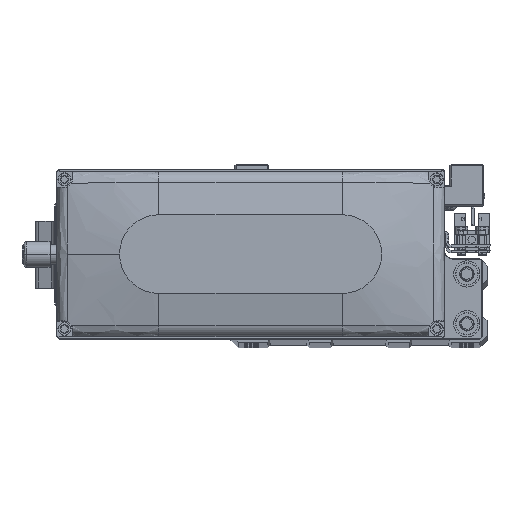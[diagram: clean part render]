
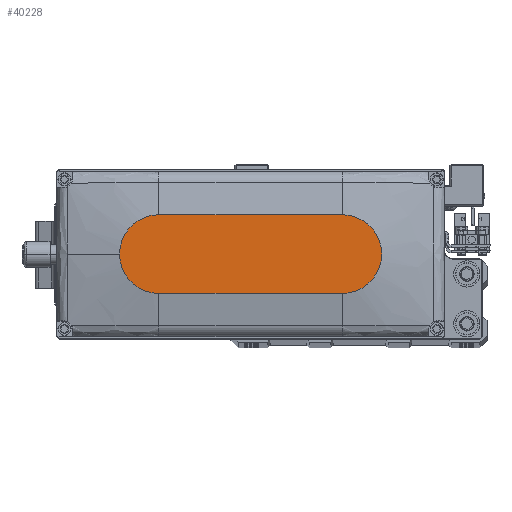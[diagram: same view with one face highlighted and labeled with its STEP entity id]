
A CAD part, top view. The second image highlights one B-rep face of the part: STEP entity #40228.
In plain terms, the highlighted planar face has unit normal (0, 0, 1).
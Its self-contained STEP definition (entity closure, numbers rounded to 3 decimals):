
#204 = PLANE ( 'NONE',  #4964 ) ;
#2951 = CIRCLE ( 'NONE', #28607, 15. ) ;
#3126 = CARTESIAN_POINT ( 'NONE',  ( -35., 0., 35. ) ) ;
#3493 = AXIS2_PLACEMENT_3D ( 'NONE', #44751, #13314, #27327 ) ;
#4129 = EDGE_CURVE ( 'NONE', #39823, #41136, #2951, .T. ) ;
#4964 = AXIS2_PLACEMENT_3D ( 'NONE', #14205, #28225, #42209 ) ;
#6933 = CARTESIAN_POINT ( 'NONE',  ( -35., -15., 35. ) ) ;
#8018 = EDGE_CURVE ( 'NONE', #41136, #9894, #31284, .T. ) ;
#8319 = DIRECTION ( 'NONE',  ( 1., 0., 0. ) ) ;
#8947 = ORIENTED_EDGE ( 'NONE', *, *, #15774, .T. ) ;
#9261 = CARTESIAN_POINT ( 'NONE',  ( 35., -15., 35. ) ) ;
#9388 = CARTESIAN_POINT ( 'NONE',  ( 35., 0., 35. ) ) ;
#9894 = VERTEX_POINT ( 'NONE', #25469 ) ;
#10033 = VECTOR ( 'NONE', #8319, 1000. ) ;
#12227 = EDGE_CURVE ( 'NONE', #9894, #21174, #35566, .T. ) ;
#13314 = DIRECTION ( 'NONE',  ( 0., 0., 1. ) ) ;
#13828 = DIRECTION ( 'NONE',  ( -1., 0., 0. ) ) ;
#14205 = CARTESIAN_POINT ( 'NONE',  ( 0., 0., 35. ) ) ;
#15681 = EDGE_LOOP ( 'NONE', ( #34417, #25240, #8947, #37245, #42040 ) ) ;
#15774 = EDGE_CURVE ( 'NONE', #21174, #38761, #25148, .T. ) ;
#17130 = DIRECTION ( 'NONE',  ( 0., 0., 1. ) ) ;
#21174 = VERTEX_POINT ( 'NONE', #6933 ) ;
#23284 = CIRCLE ( 'NONE', #3493, 15. ) ;
#23385 = DIRECTION ( 'NONE',  ( 0., 0., 1. ) ) ;
#25148 = LINE ( 'NONE', #39146, #10033 ) ;
#25240 = ORIENTED_EDGE ( 'NONE', *, *, #12227, .T. ) ;
#25469 = CARTESIAN_POINT ( 'NONE',  ( -35., 15., 35. ) ) ;
#27327 = DIRECTION ( 'NONE',  ( 1., 0., 0. ) ) ;
#28225 = DIRECTION ( 'NONE',  ( 0., 0., 1. ) ) ;
#28607 = AXIS2_PLACEMENT_3D ( 'NONE', #9388, #23385, #37381 ) ;
#29187 = CARTESIAN_POINT ( 'NONE',  ( 35., 15., 35. ) ) ;
#31043 = VECTOR ( 'NONE', #13828, 1000. ) ;
#31130 = DIRECTION ( 'NONE',  ( 1., 0., 0. ) ) ;
#31284 = LINE ( 'NONE', #45276, #31043 ) ;
#31655 = FACE_OUTER_BOUND ( 'NONE', #15681, .T. ) ;
#34417 = ORIENTED_EDGE ( 'NONE', *, *, #8018, .T. ) ;
#35368 = CARTESIAN_POINT ( 'NONE',  ( 50., 0., 35. ) ) ;
#35566 = CIRCLE ( 'NONE', #41436, 15. ) ;
#37245 = ORIENTED_EDGE ( 'NONE', *, *, #40141, .T. ) ;
#37381 = DIRECTION ( 'NONE',  ( 1., 0., 0. ) ) ;
#38761 = VERTEX_POINT ( 'NONE', #9261 ) ;
#39146 = CARTESIAN_POINT ( 'NONE',  ( -35., -15., 35. ) ) ;
#39823 = VERTEX_POINT ( 'NONE', #35368 ) ;
#40141 = EDGE_CURVE ( 'NONE', #38761, #39823, #23284, .T. ) ;
#40228 = ADVANCED_FACE ( 'NONE', ( #31655 ), #204, .T. ) ;
#41136 = VERTEX_POINT ( 'NONE', #29187 ) ;
#41436 = AXIS2_PLACEMENT_3D ( 'NONE', #3126, #17130, #31130 ) ;
#42040 = ORIENTED_EDGE ( 'NONE', *, *, #4129, .T. ) ;
#42209 = DIRECTION ( 'NONE',  ( 1., 0., 0. ) ) ;
#44751 = CARTESIAN_POINT ( 'NONE',  ( 35., 0., 35. ) ) ;
#45276 = CARTESIAN_POINT ( 'NONE',  ( -35., 15., 35. ) ) ;
